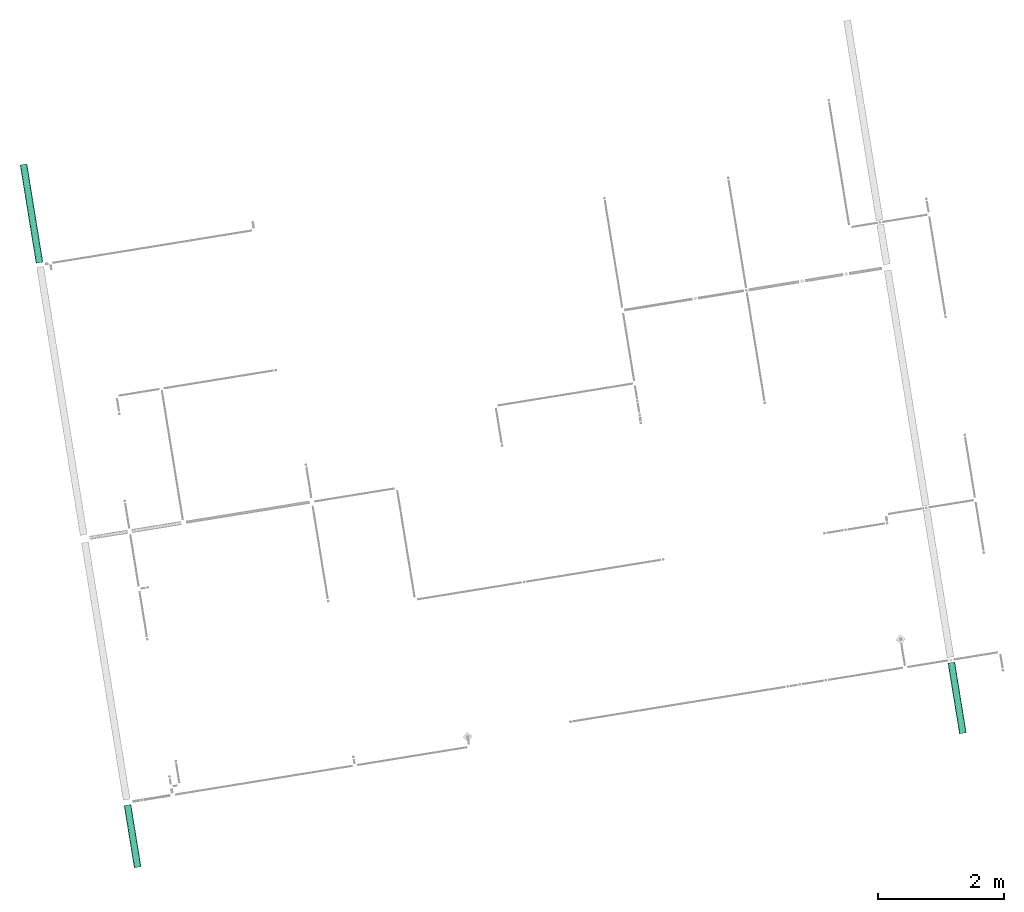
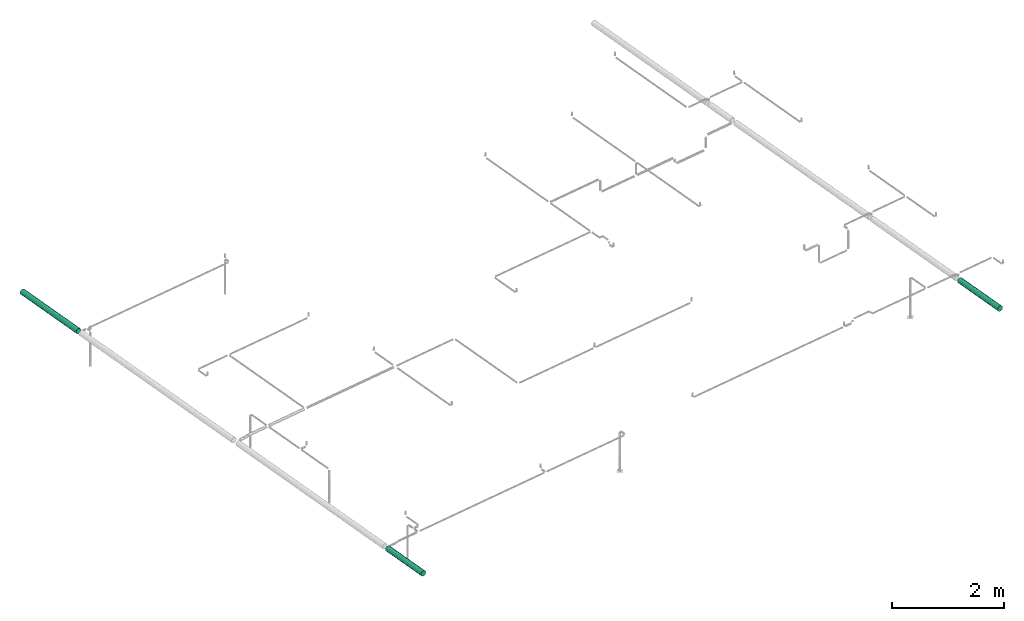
# One storey, part 11 of 11: 3 flow segments.
"""IFC2X3 building model written with IfcOpenShell, lengths in millimetres."""

from ifc_helpers import new_model, entity, si_unit, converted_unit, derived_unit, direction, frame, origin, origin_with_axes, place, context, subcontext, project, spatial, faceted_brep, type_object, element, save


model = new_model("IFC2X3")

# Units and contexts
model_context = context("Model", 3, precision=0.01, world=origin(), true_north=direction((6.12323399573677e-17, 1.0)))
plan_context = context("Plan", 3, precision=1e-05, world=origin_with_axes())
body_context = subcontext(model_context, "Body", "Model", "MODEL_VIEW")
ifc_project = project(units=[converted_unit("PLANEANGLEUNIT", "DEGREE", entity("IfcPositiveLengthMeasure", 0.0174532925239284), si_unit("PLANEANGLEUNIT", "RADIAN"), dimensions=[0, 0, 0, 0, 0, 0, 0]), si_unit("AREAUNIT", "SQUARE_METRE"), si_unit("LENGTHUNIT", "METRE", prefix="MILLI"), si_unit("MASSUNIT", "GRAM", prefix="KILO"), si_unit("POWERUNIT", "WATT"), si_unit("PRESSUREUNIT", "PASCAL", prefix="KILO"), si_unit("FORCEUNIT", "NEWTON", prefix="KILO"), si_unit("ELECTRICVOLTAGEUNIT", "VOLT"), si_unit("ELECTRICCURRENTUNIT", "AMPERE"), si_unit("THERMODYNAMICTEMPERATUREUNIT", "DEGREE_CELSIUS"), si_unit("TIMEUNIT", "SECOND"), si_unit("VOLUMEUNIT", "CUBIC_METRE"), derived_unit("LINEARVELOCITYUNIT", [(si_unit("LENGTHUNIT", "METRE"), 1), (si_unit("TIMEUNIT", "SECOND"), -1)]), derived_unit("VOLUMETRICFLOWRATEUNIT", [(si_unit("VOLUMEUNIT", "CUBIC_METRE"), 1), (si_unit("TIMEUNIT", "SECOND"), -1)]), derived_unit("THERMALTRANSMITTANCEUNIT", [(si_unit("POWERUNIT", "WATT"), 1), (si_unit("THERMODYNAMICTEMPERATUREUNIT", "KELVIN"), -1), (si_unit("AREAUNIT", "SQUARE_METRE"), -1)]), derived_unit("SOUNDPRESSUREUNIT", [(si_unit("PRESSUREUNIT", "PASCAL"), 1)])], contexts=[model_context, plan_context])

# Site, building, storey
site_placement = place(None, frame((-0.00071070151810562, 0.00438415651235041, 0.0), z_axis=(0.0, 0.0, 1.0), x_axis=(-0.160236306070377, 0.987078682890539, 0.0)))
site = spatial("IfcSite", under=ifc_project, at=site_placement, Name="Default", CompositionType="ELEMENT")
building_placement = place(site_placement, origin_with_axes())
building = spatial("IfcBuilding", under=site, at=building_placement, CompositionType="ELEMENT")
storey_placement = place(building_placement, frame((0.0, 0.0, 50999.9999999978), z_axis=(0.0, 0.0, 1.0), x_axis=(1.0, 0.0, 0.0)))
storey = spatial("IfcBuildingStorey", under=building, at=storey_placement, Name="Nivå D", CompositionType="ELEMENT", Elevation=50999.9999999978)

# Flow segments
pipe_segment_type = type_object("IfcPipeSegmentType", Name="Pipe Types:Stålrør normaltykke", PredefinedType="NOTDEFINED")
flow_segment_1_placement = place(storey_placement, origin_with_axes())
element("IfcFlowSegment", 1, at=flow_segment_1_placement, inside=storey, type_object=pipe_segment_type, Name="Pipe Types:Stålrør normaltykke", ObjectType="Pipe Types:Stålrør normaltykke", context=body_context, shape_type="Brep", body=[
    faceted_brep([(780012.619644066, -589583.699974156, 3402.07610660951), (780012.619644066, -589582.831737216, 3412.00010024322), (778426.66126993, -589582.831737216, 3412.00010024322), (778426.66126993, -589583.699974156, 3402.07610660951), (780012.619644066, -589583.699974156, 3421.92409387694), (778426.66126993, -589583.699974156, 3421.92409387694), (780012.619644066, -589586.278304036, 3431.54655198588), (778426.66126993, -589586.278304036, 3431.54655198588), (780012.619644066, -589590.488385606, 3440.5751010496), (778426.66126993, -589590.488385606, 3440.5751010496), (780012.619644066, -589596.202297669, 3448.73541317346), (778426.66126993, -589596.202297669, 3448.73541317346), (780012.619644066, -589603.246425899, 3455.77954140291), (778426.66126993, -589603.246425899, 3455.77954140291), (780012.619644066, -589611.406738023, 3461.49345346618), (778426.66126993, -589611.406738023, 3461.49345346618), (780012.619644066, -589620.435287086, 3465.70353503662), (778426.66126993, -589620.435287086, 3465.70353503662), (780012.619644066, -589630.057745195, 3468.28186491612), (778426.66126993, -589630.057745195, 3468.28186491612), (780012.619644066, -589639.981738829, 3469.15010185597), (778426.66126993, -589639.981738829, 3469.15010185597), (780012.619644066, -589649.905732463, 3468.28186491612), (778426.66126993, -589649.905732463, 3468.28186491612), (780012.619644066, -589659.528190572, 3465.70353503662), (778426.66126993, -589659.528190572, 3465.70353503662), (780012.619644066, -589668.556739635, 3461.49345346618), (778426.66126993, -589668.556739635, 3461.49345346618), (780012.619644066, -589676.717051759, 3455.77954140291), (778426.66126993, -589676.717051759, 3455.77954140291), (780012.619644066, -589683.761179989, 3448.73541317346), (778426.66126993, -589683.761179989, 3448.73541317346), (780012.619644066, -589689.475092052, 3440.5751010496), (778426.66126993, -589689.475092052, 3440.5751010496), (780012.619644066, -589693.685173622, 3431.54655198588), (778426.66126993, -589693.685173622, 3431.54655198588), (780012.619644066, -589696.263503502, 3421.92409387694), (778426.66126993, -589696.263503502, 3421.92409387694), (780012.619644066, -589697.131740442, 3412.00010024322), (778426.66126993, -589697.131740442, 3412.00010024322), (780012.619644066, -589696.263503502, 3402.07610660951), (778426.66126993, -589696.263503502, 3402.07610660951), (780012.619644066, -589693.685173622, 3392.45364850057), (778426.66126993, -589693.685173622, 3392.45364850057), (780012.619644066, -589689.475092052, 3383.42509943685), (778426.66126993, -589689.475092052, 3383.42509943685), (780012.619644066, -589683.761179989, 3375.26478731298), (778426.66126993, -589683.761179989, 3375.26478731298), (780012.619644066, -589676.717051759, 3368.22065908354), (778426.66126993, -589676.717051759, 3368.22065908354), (780012.619644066, -589668.556739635, 3362.50674702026), (778426.66126993, -589668.556739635, 3362.50674702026), (780012.619644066, -589659.528190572, 3358.29666544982), (778426.66126993, -589659.528190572, 3358.29666544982), (780012.619644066, -589649.905732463, 3355.71833557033), (778426.66126993, -589649.905732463, 3355.71833557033), (780012.619644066, -589639.981738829, 3354.85009863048), (778426.66126993, -589639.981738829, 3354.85009863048), (780012.619644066, -589630.057745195, 3355.71833557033), (778426.66126993, -589630.057745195, 3355.71833557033), (780012.619644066, -589620.435287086, 3358.29666544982), (778426.66126993, -589620.435287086, 3358.29666544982), (780012.619644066, -589611.406738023, 3362.50674702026), (778426.66126993, -589611.406738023, 3362.50674702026), (780012.619644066, -589603.246425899, 3368.22065908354), (778426.66126993, -589603.246425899, 3368.22065908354), (780012.619644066, -589596.202297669, 3375.26478731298), (778426.66126993, -589596.202297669, 3375.26478731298), (780012.619644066, -589590.488385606, 3383.42509943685), (778426.66126993, -589590.488385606, 3383.42509943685), (780012.619644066, -589586.278304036, 3392.45364850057), (778426.66126993, -589586.278304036, 3392.45364850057)], [[[0, 1, 2, 3]], [[1, 4, 5, 2]], [[4, 6, 7, 5]], [[6, 8, 9, 7]], [[8, 10, 11, 9]], [[10, 12, 13, 11]], [[12, 14, 15, 13]], [[14, 16, 17, 15]], [[16, 18, 19, 17]], [[18, 20, 21, 19]], [[20, 22, 23, 21]], [[22, 24, 25, 23]], [[24, 26, 27, 25]], [[26, 28, 29, 27]], [[28, 30, 31, 29]], [[30, 32, 33, 31]], [[32, 34, 35, 33]], [[34, 36, 37, 35]], [[36, 38, 39, 37]], [[38, 40, 41, 39]], [[40, 42, 43, 41]], [[42, 44, 45, 43]], [[44, 46, 47, 45]], [[46, 48, 49, 47]], [[48, 50, 51, 49]], [[50, 52, 53, 51]], [[52, 54, 55, 53]], [[54, 56, 57, 55]], [[56, 58, 59, 57]], [[58, 60, 61, 59]], [[60, 62, 63, 61]], [[62, 64, 65, 63]], [[64, 66, 67, 65]], [[66, 68, 69, 67]], [[68, 70, 71, 69]], [[70, 0, 3, 71]], [[3, 2, 5, 7, 9, 11, 13, 15, 17, 19, 21, 23, 25, 27, 29, 31, 33, 35, 37, 39, 41, 43, 45, 47, 49, 51, 53, 55, 57, 59, 61, 63, 65, 67, 69, 71]], [[70, 68, 66, 64, 62, 60, 58, 56, 54, 52, 50, 48, 46, 44, 42, 40, 38, 36, 34, 32, 30, 28, 26, 24, 22, 20, 18, 16, 14, 12, 10, 8, 6, 4, 1, 0]]], orient=[[False], [False], [False], [False], [False], [False], [False], [False], [False], [False], [False], [False], [False], [False], [False], [False], [False], [False], [False], [False], [False], [False], [False], [False], [False], [False], [False], [False], [False], [False], [False], [False], [False], [False], [False], [False], [False], [False]]),
])
flow_segment_2_placement = place(storey_placement, origin_with_axes())
element("IfcFlowSegment", 2, at=flow_segment_2_placement, inside=storey, type_object=pipe_segment_type, Name="Pipe Types:Stålrør normaltykke", ObjectType="Pipe Types:Stålrør normaltykke", context=body_context, shape_type="Brep", body=[
    faceted_brep([(768682.619644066, -589582.831737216, 3412.00010024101), (768682.619644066, -589583.699974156, 3402.0761066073), (769685.989509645, -589583.699974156, 3402.0761066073), (769685.989509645, -589582.831737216, 3412.00010024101), (768682.619644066, -589583.699974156, 3421.92409387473), (769685.989509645, -589583.699974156, 3421.92409387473), (768682.619644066, -589586.278304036, 3431.54655198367), (769685.989509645, -589586.278304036, 3431.54655198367), (768682.619644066, -589590.488385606, 3440.57510104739), (769685.989509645, -589590.488385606, 3440.57510104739), (768682.619644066, -589596.202297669, 3448.73541317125), (769685.989509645, -589596.202297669, 3448.73541317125), (768682.619644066, -589603.246425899, 3455.7795414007), (769685.989509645, -589603.246425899, 3455.7795414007), (768682.619644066, -589611.406738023, 3461.49345346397), (769685.989509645, -589611.406738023, 3461.49345346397), (768682.619644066, -589620.435287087, 3465.70353503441), (769685.989509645, -589620.435287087, 3465.70353503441), (768682.619644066, -589630.057745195, 3468.28186491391), (769685.989509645, -589630.057745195, 3468.28186491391), (768682.619644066, -589639.981738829, 3469.15010185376), (769685.989509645, -589639.981738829, 3469.15010185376), (768682.619644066, -589649.905732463, 3468.28186491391), (769685.989509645, -589649.905732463, 3468.28186491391), (768682.619644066, -589659.528190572, 3465.70353503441), (769685.989509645, -589659.528190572, 3465.70353503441), (768682.619644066, -589668.556739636, 3461.49345346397), (769685.989509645, -589668.556739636, 3461.49345346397), (768682.619644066, -589676.717051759, 3455.7795414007), (769685.989509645, -589676.717051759, 3455.7795414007), (768682.619644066, -589683.761179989, 3448.73541317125), (769685.989509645, -589683.761179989, 3448.73541317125), (768682.619644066, -589689.475092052, 3440.57510104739), (769685.989509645, -589689.475092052, 3440.57510104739), (768682.619644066, -589693.685173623, 3431.54655198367), (769685.989509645, -589693.685173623, 3431.54655198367), (768682.619644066, -589696.263503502, 3421.92409387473), (769685.989509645, -589696.263503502, 3421.92409387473), (768682.619644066, -589697.131740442, 3412.00010024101), (769685.989509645, -589697.131740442, 3412.00010024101), (768682.619644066, -589696.263503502, 3402.0761066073), (769685.989509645, -589696.263503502, 3402.0761066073), (768682.619644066, -589693.685173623, 3392.45364849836), (769685.989509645, -589693.685173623, 3392.45364849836), (768682.619644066, -589689.475092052, 3383.42509943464), (769685.989509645, -589689.475092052, 3383.42509943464), (768682.619644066, -589683.761179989, 3375.26478731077), (769685.989509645, -589683.761179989, 3375.26478731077), (768682.619644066, -589676.717051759, 3368.22065908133), (769685.989509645, -589676.717051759, 3368.22065908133), (768682.619644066, -589668.556739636, 3362.50674701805), (769685.989509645, -589668.556739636, 3362.50674701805), (768682.619644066, -589659.528190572, 3358.29666544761), (769685.989509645, -589659.528190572, 3358.29666544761), (768682.619644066, -589649.905732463, 3355.71833556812), (769685.989509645, -589649.905732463, 3355.71833556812), (768682.619644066, -589639.981738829, 3354.85009862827), (769685.989509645, -589639.981738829, 3354.85009862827), (768682.619644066, -589630.057745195, 3355.71833556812), (769685.989509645, -589630.057745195, 3355.71833556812), (768682.619644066, -589620.435287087, 3358.29666544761), (769685.989509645, -589620.435287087, 3358.29666544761), (768682.619644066, -589611.406738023, 3362.50674701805), (769685.989509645, -589611.406738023, 3362.50674701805), (768682.619644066, -589603.246425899, 3368.22065908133), (769685.989509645, -589603.246425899, 3368.22065908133), (768682.619644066, -589596.202297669, 3375.26478731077), (769685.989509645, -589596.202297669, 3375.26478731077), (768682.619644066, -589590.488385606, 3383.42509943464), (769685.989509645, -589590.488385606, 3383.42509943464), (768682.619644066, -589586.278304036, 3392.45364849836), (769685.989509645, -589586.278304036, 3392.45364849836)], [[[0, 1, 2, 3]], [[4, 0, 3, 5]], [[6, 4, 5, 7]], [[8, 6, 7, 9]], [[10, 8, 9, 11]], [[12, 10, 11, 13]], [[14, 12, 13, 15]], [[16, 14, 15, 17]], [[18, 16, 17, 19]], [[20, 18, 19, 21]], [[22, 20, 21, 23]], [[24, 22, 23, 25]], [[26, 24, 25, 27]], [[28, 26, 27, 29]], [[30, 28, 29, 31]], [[32, 30, 31, 33]], [[34, 32, 33, 35]], [[36, 34, 35, 37]], [[38, 36, 37, 39]], [[40, 38, 39, 41]], [[42, 40, 41, 43]], [[44, 42, 43, 45]], [[46, 44, 45, 47]], [[48, 46, 47, 49]], [[50, 48, 49, 51]], [[52, 50, 51, 53]], [[54, 52, 53, 55]], [[56, 54, 55, 57]], [[58, 56, 57, 59]], [[60, 58, 59, 61]], [[62, 60, 61, 63]], [[64, 62, 63, 65]], [[66, 64, 65, 67]], [[68, 66, 67, 69]], [[70, 68, 69, 71]], [[1, 70, 71, 2]], [[3, 2, 71, 69, 67, 65, 63, 61, 59, 57, 55, 53, 51, 49, 47, 45, 43, 41, 39, 37, 35, 33, 31, 29, 27, 25, 23, 21, 19, 17, 15, 13, 11, 9, 7, 5]], [[4, 6, 8, 10, 12, 14, 16, 18, 20, 22, 24, 26, 28, 30, 32, 34, 36, 38, 40, 42, 44, 46, 48, 50, 52, 54, 56, 58, 60, 62, 64, 66, 68, 70, 1, 0]]], orient=[[False], [False], [False], [False], [False], [False], [False], [False], [False], [False], [False], [False], [False], [False], [False], [False], [False], [False], [False], [False], [False], [False], [False], [False], [False], [False], [False], [False], [False], [False], [False], [False], [False], [False], [False], [False], [False], [False]]),
])
flow_segment_3_placement = place(storey_placement, origin_with_axes())
element("IfcFlowSegment", 3, at=flow_segment_3_placement, inside=storey, type_object=pipe_segment_type, Name="Pipe Types:Stålrør normaltykke", ObjectType="Pipe Types:Stålrør normaltykke", context=body_context, shape_type="Brep", body=[
    faceted_brep([(768682.619644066, -602999.758211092, 3300.0), (768682.619644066, -602998.889974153, 3309.92399363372), (769822.719652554, -602998.889974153, 3309.92399363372), (769822.719652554, -602999.758211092, 3300.0), (768682.619644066, -602998.889974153, 3290.07600636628), (769822.719652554, -602998.889974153, 3290.07600636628), (768682.619644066, -602996.311644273, 3280.45354825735), (769822.719652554, -602996.311644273, 3280.45354825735), (768682.619644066, -602992.101562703, 3271.42499919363), (769822.719652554, -602992.101562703, 3271.42499919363), (768682.619644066, -602986.387650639, 3263.26468706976), (769822.719652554, -602986.387650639, 3263.26468706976), (768682.619644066, -602979.34352241, 3256.22055884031), (769822.719652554, -602979.34352241, 3256.22055884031), (768682.619644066, -602971.183210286, 3250.50664677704), (769822.719652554, -602971.183210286, 3250.50664677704), (768682.619644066, -602962.154661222, 3246.2965652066), (769822.719652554, -602962.154661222, 3246.2965652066), (768682.619644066, -602952.532203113, 3243.71823532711), (769822.719652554, -602952.532203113, 3243.71823532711), (768682.619644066, -602942.60820948, 3242.84999838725), (769822.719652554, -602942.60820948, 3242.84999838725), (768682.619644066, -602932.684215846, 3243.71823532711), (769822.719652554, -602932.684215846, 3243.71823532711), (768682.619644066, -602923.061757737, 3246.2965652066), (769822.719652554, -602923.061757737, 3246.2965652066), (768682.619644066, -602914.033208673, 3250.50664677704), (769822.719652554, -602914.033208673, 3250.50664677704), (768682.619644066, -602905.87289655, 3256.22055884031), (769822.719652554, -602905.87289655, 3256.22055884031), (768682.619644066, -602898.82876832, 3263.26468706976), (769822.719652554, -602898.82876832, 3263.26468706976), (768682.619644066, -602893.114856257, 3271.42499919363), (769822.719652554, -602893.114856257, 3271.42499919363), (768682.619644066, -602888.904774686, 3280.45354825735), (769822.719652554, -602888.904774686, 3280.45354825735), (768682.619644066, -602886.326444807, 3290.07600636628), (769822.719652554, -602886.326444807, 3290.07600636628), (768682.619644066, -602885.458207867, 3300.0), (769822.719652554, -602885.458207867, 3300.0), (768682.619644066, -602886.326444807, 3309.92399363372), (769822.719652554, -602886.326444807, 3309.92399363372), (768682.619644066, -602888.904774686, 3319.54645174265), (769822.719652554, -602888.904774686, 3319.54645174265), (768682.619644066, -602893.114856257, 3328.57500080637), (769822.719652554, -602893.114856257, 3328.57500080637), (768682.619644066, -602898.82876832, 3336.73531293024), (769822.719652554, -602898.82876832, 3336.73531293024), (768682.619644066, -602905.87289655, 3343.77944115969), (769822.719652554, -602905.87289655, 3343.77944115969), (768682.619644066, -602914.033208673, 3349.49335322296), (769822.719652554, -602914.033208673, 3349.49335322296), (768682.619644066, -602923.061757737, 3353.7034347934), (769822.719652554, -602923.061757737, 3353.7034347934), (768682.619644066, -602932.684215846, 3356.28176467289), (769822.719652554, -602932.684215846, 3356.28176467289), (768682.619644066, -602942.60820948, 3357.15000161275), (769822.719652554, -602942.60820948, 3357.15000161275), (768682.619644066, -602952.532203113, 3356.28176467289), (769822.719652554, -602952.532203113, 3356.28176467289), (768682.619644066, -602962.154661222, 3353.7034347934), (769822.719652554, -602962.154661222, 3353.7034347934), (768682.619644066, -602971.183210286, 3349.49335322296), (769822.719652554, -602971.183210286, 3349.49335322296), (768682.619644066, -602979.34352241, 3343.77944115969), (769822.719652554, -602979.34352241, 3343.77944115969), (768682.619644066, -602986.387650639, 3336.73531293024), (769822.719652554, -602986.387650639, 3336.73531293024), (768682.619644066, -602992.101562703, 3328.57500080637), (769822.719652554, -602992.101562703, 3328.57500080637), (768682.619644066, -602996.311644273, 3319.54645174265), (769822.719652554, -602996.311644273, 3319.54645174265)], [[[0, 1, 2, 3]], [[4, 0, 3, 5]], [[6, 4, 5, 7]], [[8, 6, 7, 9]], [[10, 8, 9, 11]], [[12, 10, 11, 13]], [[14, 12, 13, 15]], [[16, 14, 15, 17]], [[18, 16, 17, 19]], [[20, 18, 19, 21]], [[22, 20, 21, 23]], [[24, 22, 23, 25]], [[26, 24, 25, 27]], [[28, 26, 27, 29]], [[30, 28, 29, 31]], [[32, 30, 31, 33]], [[34, 32, 33, 35]], [[36, 34, 35, 37]], [[38, 36, 37, 39]], [[40, 38, 39, 41]], [[42, 40, 41, 43]], [[44, 42, 43, 45]], [[46, 44, 45, 47]], [[48, 46, 47, 49]], [[50, 48, 49, 51]], [[52, 50, 51, 53]], [[54, 52, 53, 55]], [[56, 54, 55, 57]], [[58, 56, 57, 59]], [[60, 58, 59, 61]], [[62, 60, 61, 63]], [[64, 62, 63, 65]], [[66, 64, 65, 67]], [[68, 66, 67, 69]], [[70, 68, 69, 71]], [[1, 70, 71, 2]], [[3, 2, 71, 69, 67, 65, 63, 61, 59, 57, 55, 53, 51, 49, 47, 45, 43, 41, 39, 37, 35, 33, 31, 29, 27, 25, 23, 21, 19, 17, 15, 13, 11, 9, 7, 5]], [[4, 6, 8, 10, 12, 14, 16, 18, 20, 22, 24, 26, 28, 30, 32, 34, 36, 38, 40, 42, 44, 46, 48, 50, 52, 54, 56, 58, 60, 62, 64, 66, 68, 70, 1, 0]]], orient=[[False], [False], [False], [False], [False], [False], [False], [False], [False], [False], [False], [False], [False], [False], [False], [False], [False], [False], [False], [False], [False], [False], [False], [False], [False], [False], [False], [False], [False], [False], [False], [False], [False], [False], [False], [False], [False], [False]]),
])

save(model, "model.ifc")
